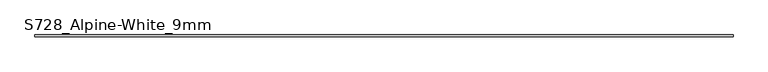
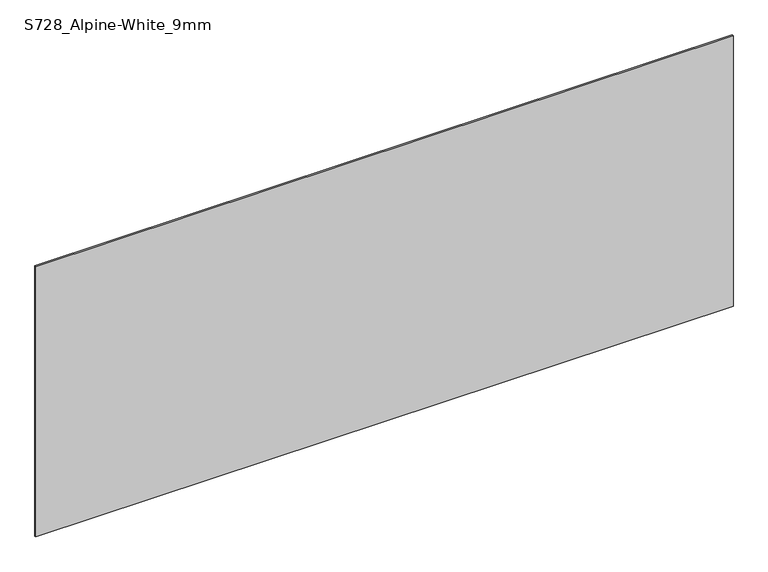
"""IFC4 building model written with IfcOpenShell, lengths in millimetres: plate geometry, Curtain-Panels_Outdoor-Material_HI-MACS_Solids : S728_Alpine-White_9mm."""

from ifc_helpers import new_model, si_unit, origin, origin_with_axes, place, context, project, spatial, polyline, outline, extrude, source, transform, mapped, element, save


def s728_alpine_white_9mm_6674c327(model_context):
    return source(origin(), model_context, "Body", "SweptSolid", [
        extrude(outline(polyline([(1840.0, 4.5), (1840.0, -4.5), (-1840.0, -4.5), (-1840.0, 4.5), (1840.0, 4.5)])), origin_with_axes(), (0.0, 0.0, 1.0), 1507.8728994),
    ])


if __name__ == "__main__":
    model = new_model("IFC4")
    model_context = context("Model", 3, world=origin())
    ifc_project = project(units=[si_unit("LENGTHUNIT", "METRE", prefix="MILLI")], contexts=[model_context])
    site = spatial("IfcSite", under=ifc_project)
    building = spatial("IfcBuilding", under=site)
    placement = place(None, origin())
    s728_alpine_white_9mm_shape = s728_alpine_white_9mm_6674c327(model_context)
    element("IfcPlate", 1, ObjectType="Curtain-Panels_Outdoor-Material_HI-MACS_Solids : S728_Alpine-White_9mm", at=placement, inside=building, context=model_context, shape_type="MappedRepresentation", body=[
        mapped(s728_alpine_white_9mm_shape, transform((0.0, 0.0, 0.0), x_axis=(1.0, 0.0, 0.0), y_axis=(0.0, 1.0, 0.0), z_axis=(0.0, 0.0, 1.0))),
    ])
    save(model, "model.ifc")
